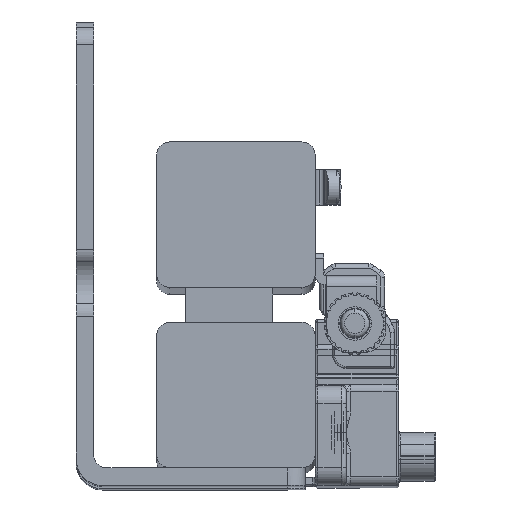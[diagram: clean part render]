
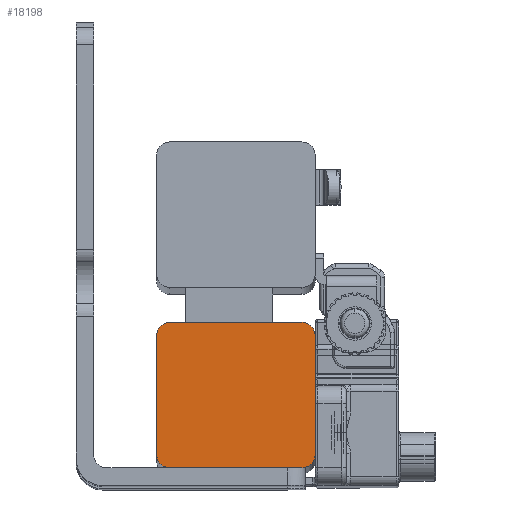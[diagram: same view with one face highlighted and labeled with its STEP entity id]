
A CAD part, top view. The second image highlights one B-rep face of the part: STEP entity #18198.
In plain terms, the highlighted planar face has unit normal (0, 0, 1).
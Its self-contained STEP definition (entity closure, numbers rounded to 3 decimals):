
#127 = CARTESIAN_POINT ( 'NONE',  ( -242.439, 206.158, 581.031 ) ) ;
#1950 = CARTESIAN_POINT ( 'NONE',  ( -258.939, 206.158, 581.031 ) ) ;
#2023 = ORIENTED_EDGE ( 'NONE', *, *, #82119, .T. ) ;
#7710 = CIRCLE ( 'NONE', #49148, 1.5 ) ;
#8278 = ORIENTED_EDGE ( 'NONE', *, *, #55376, .T. ) ;
#9074 = LINE ( 'NONE', #1950, #27050 ) ;
#9722 = FACE_OUTER_BOUND ( 'NONE', #11273, .T. ) ;
#9948 = EDGE_CURVE ( 'NONE', #72880, #31902, #39907, .T. ) ;
#11273 = EDGE_LOOP ( 'NONE', ( #81516, #2023, #75630, #8278, #43287, #51676, #59170, #35868 ) ) ;
#12247 = DIRECTION ( 'NONE',  ( 0., -1., 0. ) ) ;
#12960 = VERTEX_POINT ( 'NONE', #42659 ) ;
#13084 = LINE ( 'NONE', #38176, #72711 ) ;
#13946 = CARTESIAN_POINT ( 'NONE',  ( -240.939, 189.658, 581.031 ) ) ;
#15202 = DIRECTION ( 'NONE',  ( 0., 0., -1. ) ) ;
#18027 = CIRCLE ( 'NONE', #23422, 1.5 ) ;
#18065 = VECTOR ( 'NONE', #68057, 1000. ) ;
#18198 = ADVANCED_FACE ( 'NONE', ( #9722 ), #54501, .F. ) ;
#19237 = DIRECTION ( 'NONE',  ( -1., 0., 0. ) ) ;
#19794 = EDGE_CURVE ( 'NONE', #55740, #42866, #18027, .T. ) ;
#20079 = VERTEX_POINT ( 'NONE', #78532 ) ;
#20674 = CARTESIAN_POINT ( 'NONE',  ( -242.439, 191.158, 581.031 ) ) ;
#20934 = CARTESIAN_POINT ( 'NONE',  ( -258.939, 191.158, 581.031 ) ) ;
#22032 = VECTOR ( 'NONE', #57871, 1000. ) ;
#23422 = AXIS2_PLACEMENT_3D ( 'NONE', #82380, #43476, #19237 ) ;
#23731 = CARTESIAN_POINT ( 'NONE',  ( -240.939, 189.658, 581.031 ) ) ;
#27050 = VECTOR ( 'NONE', #34600, 1000. ) ;
#30971 = CARTESIAN_POINT ( 'NONE',  ( -257.439, 189.658, 581.031 ) ) ;
#31902 = VERTEX_POINT ( 'NONE', #36761 ) ;
#32811 = CIRCLE ( 'NONE', #56860, 1.5 ) ;
#33338 = DIRECTION ( 'NONE',  ( 0., 0., -1. ) ) ;
#33743 = CARTESIAN_POINT ( 'NONE',  ( -257.439, 206.158, 581.031 ) ) ;
#34600 = DIRECTION ( 'NONE',  ( -1., 0., 0. ) ) ;
#35256 = DIRECTION ( 'NONE',  ( 0., -1., 0. ) ) ;
#35606 = CARTESIAN_POINT ( 'NONE',  ( -242.439, 204.658, 581.031 ) ) ;
#35868 = ORIENTED_EDGE ( 'NONE', *, *, #53208, .T. ) ;
#36761 = CARTESIAN_POINT ( 'NONE',  ( -242.439, 189.658, 581.031 ) ) ;
#37642 = VERTEX_POINT ( 'NONE', #127 ) ;
#38176 = CARTESIAN_POINT ( 'NONE',  ( -258.939, 189.658, 581.031 ) ) ;
#38609 = AXIS2_PLACEMENT_3D ( 'NONE', #20674, #70879, #70488 ) ;
#39177 = DIRECTION ( 'NONE',  ( -1., 0., 0. ) ) ;
#39907 = CIRCLE ( 'NONE', #38609, 1.5 ) ;
#41279 = AXIS2_PLACEMENT_3D ( 'NONE', #47392, #15202, #35256 ) ;
#42273 = DIRECTION ( 'NONE',  ( -1., 0., 0. ) ) ;
#42659 = CARTESIAN_POINT ( 'NONE',  ( -258.939, 204.658, 581.031 ) ) ;
#42866 = VERTEX_POINT ( 'NONE', #20934 ) ;
#43287 = ORIENTED_EDGE ( 'NONE', *, *, #19794, .F. ) ;
#43476 = DIRECTION ( 'NONE',  ( 0., 0., -1. ) ) ;
#47392 = CARTESIAN_POINT ( 'NONE',  ( -242.429, 191.148, 581.031 ) ) ;
#49148 = AXIS2_PLACEMENT_3D ( 'NONE', #35606, #62349, #42273 ) ;
#51676 = ORIENTED_EDGE ( 'NONE', *, *, #58145, .T. ) ;
#52832 = LINE ( 'NONE', #13946, #22032 ) ;
#53208 = EDGE_CURVE ( 'NONE', #72880, #20079, #52832, .T. ) ;
#54501 = PLANE ( 'NONE',  #41279 ) ;
#55376 = EDGE_CURVE ( 'NONE', #12960, #42866, #13084, .T. ) ;
#55740 = VERTEX_POINT ( 'NONE', #30971 ) ;
#56860 = AXIS2_PLACEMENT_3D ( 'NONE', #70611, #33338, #39177 ) ;
#57871 = DIRECTION ( 'NONE',  ( 0., 1., 0. ) ) ;
#58145 = EDGE_CURVE ( 'NONE', #55740, #31902, #80990, .T. ) ;
#59170 = ORIENTED_EDGE ( 'NONE', *, *, #9948, .F. ) ;
#62349 = DIRECTION ( 'NONE',  ( 0., 0., -1. ) ) ;
#64067 = EDGE_CURVE ( 'NONE', #12960, #64091, #32811, .T. ) ;
#64091 = VERTEX_POINT ( 'NONE', #33743 ) ;
#68057 = DIRECTION ( 'NONE',  ( 1., 0., 0. ) ) ;
#69897 = CARTESIAN_POINT ( 'NONE',  ( -240.939, 191.158, 581.031 ) ) ;
#70488 = DIRECTION ( 'NONE',  ( -1., 0., 0. ) ) ;
#70611 = CARTESIAN_POINT ( 'NONE',  ( -257.439, 204.658, 581.031 ) ) ;
#70879 = DIRECTION ( 'NONE',  ( 0., 0., -1. ) ) ;
#71015 = EDGE_CURVE ( 'NONE', #37642, #20079, #7710, .T. ) ;
#72711 = VECTOR ( 'NONE', #12247, 1000. ) ;
#72880 = VERTEX_POINT ( 'NONE', #69897 ) ;
#75630 = ORIENTED_EDGE ( 'NONE', *, *, #64067, .F. ) ;
#78532 = CARTESIAN_POINT ( 'NONE',  ( -240.939, 204.658, 581.031 ) ) ;
#80990 = LINE ( 'NONE', #23731, #18065 ) ;
#81516 = ORIENTED_EDGE ( 'NONE', *, *, #71015, .F. ) ;
#82119 = EDGE_CURVE ( 'NONE', #37642, #64091, #9074, .T. ) ;
#82380 = CARTESIAN_POINT ( 'NONE',  ( -257.439, 191.158, 581.031 ) ) ;
